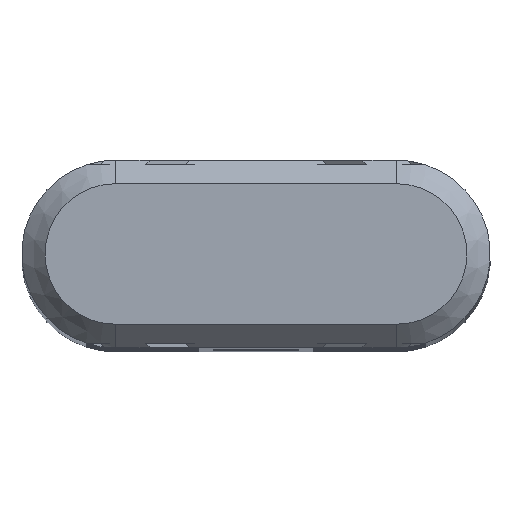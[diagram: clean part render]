
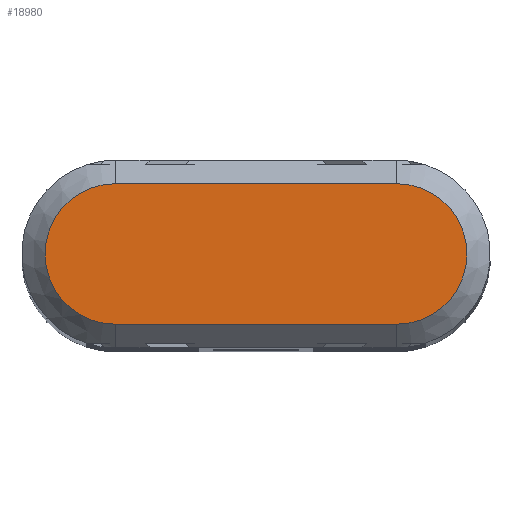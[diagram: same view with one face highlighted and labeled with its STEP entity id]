
A CAD part, top view. The second image highlights one B-rep face of the part: STEP entity #18980.
In plain terms, the highlighted planar face has unit normal (0, 0, 1).
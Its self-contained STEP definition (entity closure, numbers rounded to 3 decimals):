
#18570=CARTESIAN_POINT('',(13.869,4.044,
-2.4));
#18580=DIRECTION('',(0.,0.,-1.));
#18590=DIRECTION('',(-1.,0.,0.));
#18600=AXIS2_PLACEMENT_3D('',#18570,#18580,#18590);
#18610=PLANE('',#18600);
#18620=CARTESIAN_POINT('',(13.869,7.044,
-2.4));
#18630=DIRECTION('',(1.,0.,0.));
#18640=VECTOR('',#18630,1.);
#18650=LINE('',#18620,#18640);
#18660=CARTESIAN_POINT('',(7.869,7.044,
-2.4));
#18670=VERTEX_POINT('',#18660);
#18680=CARTESIAN_POINT('',(19.869,7.044,
-2.4));
#18690=VERTEX_POINT('',#18680);
#18700=EDGE_CURVE('',#18670,#18690,#18650,.T.);
#18710=ORIENTED_EDGE('',*,*,#18700,.F.);
#18720=CARTESIAN_POINT('',(19.869,4.044,
-2.4));
#18730=DIRECTION('',(0.,0.,-1.));
#18740=DIRECTION('',(-1.,0.,0.));
#18750=AXIS2_PLACEMENT_3D('',#18720,#18730,#18740);
#18760=CIRCLE('',#18750,3.);
#18770=CARTESIAN_POINT('',(19.869,1.044,
-2.4));
#18780=VERTEX_POINT('',#18770);
#18790=EDGE_CURVE('',#18690,#18780,#18760,.T.);
#18800=ORIENTED_EDGE('',*,*,#18790,.F.);
#18810=CARTESIAN_POINT('',(13.869,1.044,
-2.4));
#18820=DIRECTION('',(-1.,0.,0.));
#18830=VECTOR('',#18820,1.);
#18840=LINE('',#18810,#18830);
#18850=CARTESIAN_POINT('',(7.869,1.044,
-2.4));
#18860=VERTEX_POINT('',#18850);
#18870=EDGE_CURVE('',#18780,#18860,#18840,.T.);
#18880=ORIENTED_EDGE('',*,*,#18870,.F.);
#18890=CARTESIAN_POINT('',(7.869,4.044,
-2.4));
#18900=DIRECTION('',(0.,0.,-1.));
#18910=DIRECTION('',(-1.,0.,0.));
#18920=AXIS2_PLACEMENT_3D('',#18890,#18900,#18910);
#18930=CIRCLE('',#18920,3.);
#18940=EDGE_CURVE('',#18860,#18670,#18930,.T.);
#18950=ORIENTED_EDGE('',*,*,#18940,.F.);
#18960=EDGE_LOOP('',(#18950,#18880,#18800,#18710));
#18970=FACE_OUTER_BOUND('',#18960,.T.);
#18980=ADVANCED_FACE('',(#18970),#18610,.F.);
